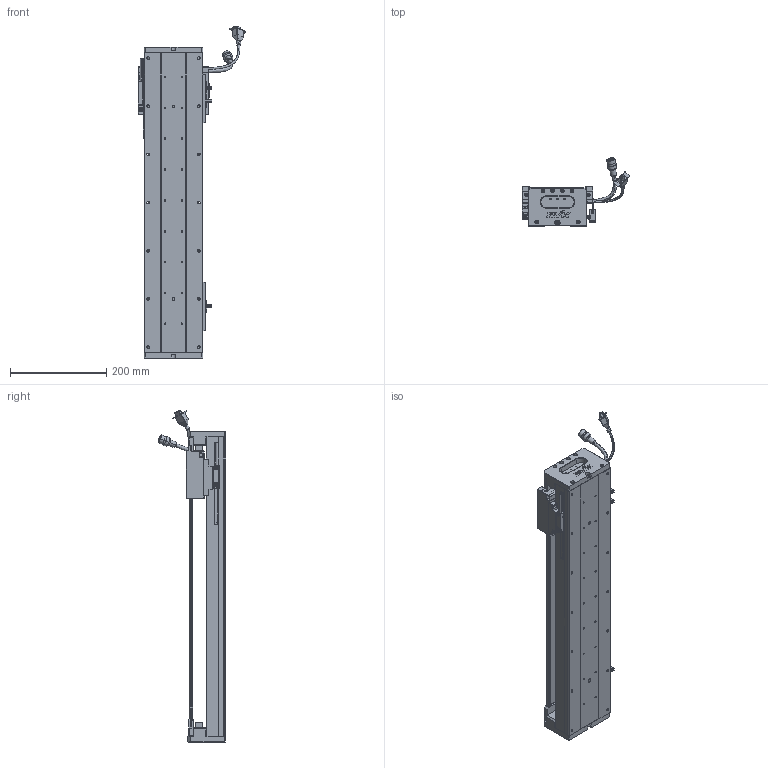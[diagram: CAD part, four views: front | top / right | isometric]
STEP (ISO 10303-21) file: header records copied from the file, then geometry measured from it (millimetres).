
FILE_DESCRIPTION (( 'STEP AP203' ), '1' );
FILE_NAME ('Z1-RY120D-1-L500-B-K.SLDASM_0450.step', '2021-05-17T03:44:53', ( '盈信电脑' ), ( '东莞市道滘镇水果街19号' ), 'SwSTEP 2.0', 'SolidWorks 2016', '' );
FILE_SCHEMA (( 'CONFIG_CONTROL_DESIGN' ));
Length unit declared in the file: millimetre
Products named in the file (37): SHIELDPLATE; HARNESS-Part-2; SCREW-M1.7-1; SCALE-Part-2; 672嫖萇羲壽假蚾釱; COVER; Z-RY120D詩湍奻揤裔; HOLDER0; SCREW-M1.6-3; 140蚥薯蝶輸; Z1-RY120D-1-L500-B-K.SLDASM_0450; 覜茼ん672; HARNESS-Part-1; SCREW-M1.6; SEAL; 120-Z-臏賑輸盄裔(21遴); RY100FB-遵嫖萇覜茼え; Z1-RY120铝滑块（21款）; COVER-Part-1; SCALE-Part-1; SEAL-Part-1; LABEL-Part-1; Z1-RY120-500-倰第菁釱_0450; PBU_SHEET; HARNESS; Z-RY120D詩湍狟揤裔; LABEL; 140雄赽晤鎢ん堤盄; 080黍杅芛假蚾釱21遴; SCREW-M1.7; Z-120詩湍傷裔啣; SCREW-M1.6-2; SCREW-M1.6-1; PSLH080_PSLF2; 榋妏寠巭燃_暯_M2_2; SCALE; Z1-RY120-L500詩湍100mm遵_0450
Assembly tree (43 placements, depth 4):
  Z1-RY120D-1-L500-B-K.SLDASM_0450
    Z1-RY120-500-倰第菁釱_0450
    覜茼ん672  x3
    672嫖萇羲壽假蚾釱  x2
    Z1-RY120铝滑块（21款）
    PSLH080_PSLF2
      SCALE
        SCALE-Part-1
        SCALE-Part-2
      HARNESS
        HARNESS-Part-1
        HARNESS-Part-2
      LABEL
        LABEL-Part-1
      COVER
        COVER-Part-1
      SEAL
        SEAL-Part-1
      榋妏寠巭燃_暯_M2_2
      SHIELDPLATE
      SCREW-M1.7
      SCREW-M1.7-1
      PBU_SHEET
      SCREW-M1.6
      SCREW-M1.6-1
      SCREW-M1.6-2
      SCREW-M1.6-3
      HOLDER0
    080黍杅芛假蚾釱21遴
    120-Z-臏賑輸盄裔(21遴)
    140雄赽晤鎢ん堤盄
    140蚥薯蝶輸  x2
    RY100FB-遵嫖萇覜茼え
    Z-120詩湍傷裔啣  x2
    Z-RY120D詩湍奻揤裔  x2
    Z-RY120D詩湍狟揤裔  x2
    Z1-RY120-L500詩湍100mm遵_0450
Bounding box: 222.88 x 140.94 x 689 mm (x, y, z)
Volume: 1944714.7 mm3; surface area: 671397.4 mm2
Topology: 38 solids, 38 shells, 2541 faces, 6770 edges, 4284 vertices
Faces by surface type: cylinder 1094, plane 1087, cone 238, torus 69, bspline 53
Entity records: 73727 total; most frequent: CARTESIAN_POINT 18960, ORIENTED_EDGE 10588, DIRECTION 10540, EDGE_CURVE 5294, AXIS2_PLACEMENT_3D 3814, VERTEX_POINT 3404, LINE 2912, VECTOR 2912
